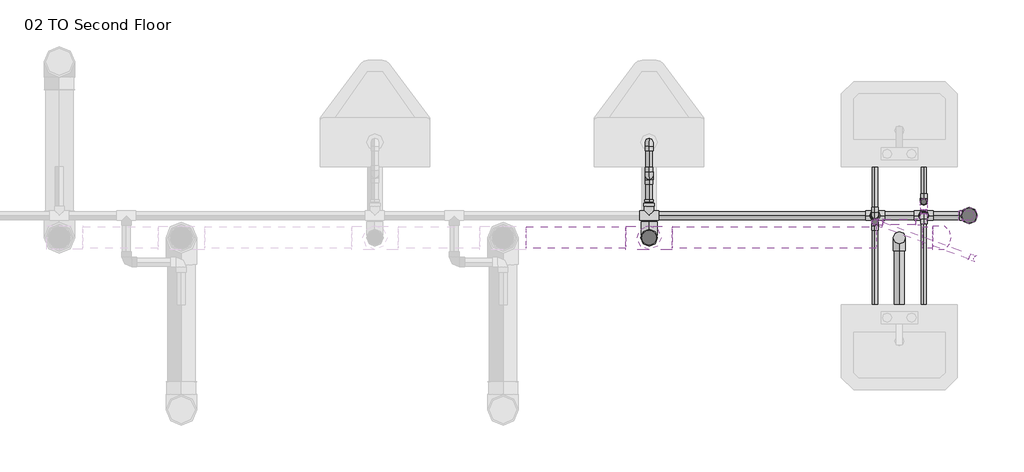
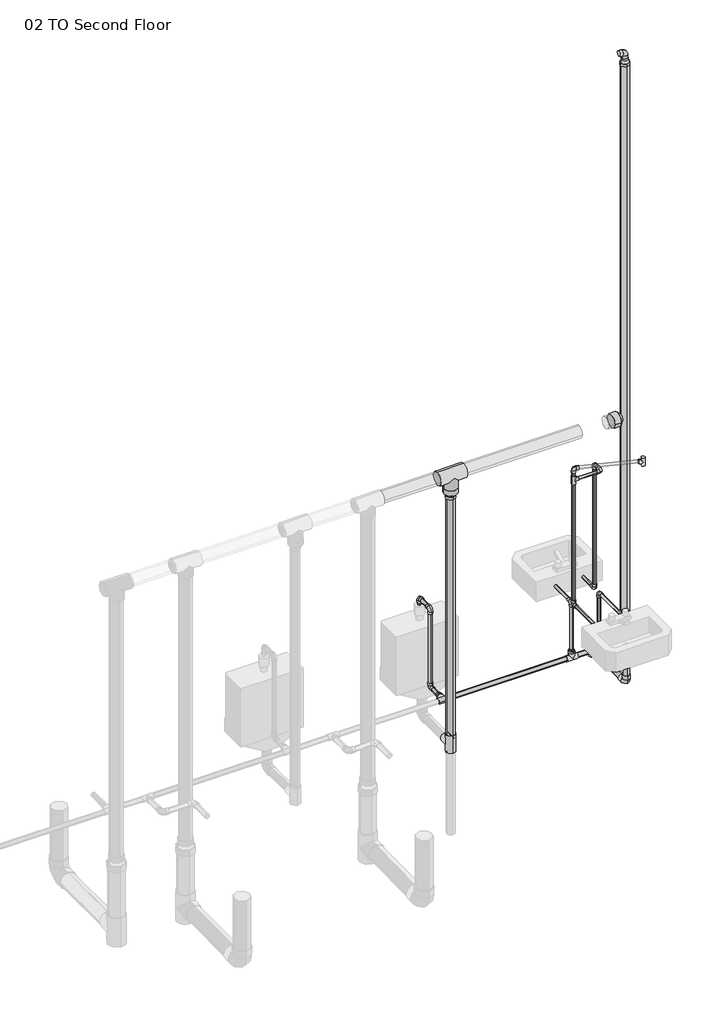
# One storey, part 3 of 3: 29 pipe fittings, 26 pipe segments.
"""IFC4 building model written with IfcOpenShell, lengths in millimetres."""

from ifc_helpers import new_model, si_unit, point, frame, frame_2d, origin, place, context, project, spatial, circle_curve, trimmed, segment, composite_curve, outline, extrude, transform, mapped, element, save
from components import cap_pvc_sch_40_standard_56ae4cf4, elbow_pvc_sch_40_standard_49eec4e1, elbow_pvc_sch_40_standard_69e4ce0e, elbow_pvc_sch_40_standard_517a5a8d, elbow_pvc_sch_40_standard_b266ab3f, reducer_pvc_sch_40_dwv_standard_464ee0c2, reducer_pvc_sch_40_dwv_standard_62d2b996, reducer_pvc_sch_40_dwv_standard_36281592, reducer_pvc_sch_40_dwv_standard_0d64fc83, reducer_pvc_sch_40_dwv_standard_ca3bfa07, tee_pvc_sch_40_standard_2c251a49, tee_pvc_sch_40_standard_b08d6211, tee_pvc_sch_40_standard_08ff6011, tee_pvc_sch_40_standard_9261842d, tee_pvc_sch_40_standard_72b35c3b

model = new_model("IFC4")

# Units and contexts
model_context = context("Model", 3, world=origin())
ifc_project = project(units=[si_unit("LENGTHUNIT", "METRE", prefix="MILLI")], contexts=[model_context])

# Site, building, storey
site = spatial("IfcSite", under=ifc_project)
building = spatial("IfcBuilding", under=site)
storey = spatial("IfcBuildingStorey", under=building, Name="02 TO Second Floor", Elevation=4572.0)

# Pipe fittings
placement = place(None, origin())
cap_pvc_sch_40_standard_shape = cap_pvc_sch_40_standard_56ae4cf4(model_context)
element("IfcPipeFitting", 1, ObjectType="Cap - PVC - Sch 40 : Standard", at=placement, inside=storey, context=model_context, shape_type="MappedRepresentation", body=[
    mapped(cap_pvc_sch_40_standard_shape, transform((-12487.0540617, -4439.7857603, 6735.7752), x_axis=(1.0, 0.0, 0.0), y_axis=(0.0, 1.0, 0.0), z_axis=(0.0, 0.0, 1.0))),
])
elbow_pvc_sch_40_standard_shape = elbow_pvc_sch_40_standard_49eec4e1(model_context)
element("IfcPipeFitting", 2, ObjectType="Elbow - PVC - Sch 40 : Standard", at=placement, inside=storey, context=model_context, shape_type="MappedRepresentation", body=[
    mapped(elbow_pvc_sch_40_standard_shape, transform((-12525.0118429, -4290.4203325, 5359.4), x_axis=(0.0, -1.0, 0.0), y_axis=(0.0, 0.0, 1.0), z_axis=(-1.0, 0.0, 0.0))),
])
element("IfcPipeFitting", 3, ObjectType="Elbow - PVC - Sch 40 : Standard", at=placement, inside=storey, context=model_context, shape_type="MappedRepresentation", body=[
    mapped(elbow_pvc_sch_40_standard_shape, transform((-12728.2118429, -4374.5670235, 5359.4), x_axis=(0.0, 0.0, -1.0), y_axis=(0.0, -1.0, 0.0), z_axis=(-1.0, 0.0, 0.0))),
])
element("IfcPipeFitting", 4, ObjectType="Elbow - PVC - Sch 40 : Standard", at=placement, inside=storey, context=model_context, shape_type="MappedRepresentation", body=[
    mapped(elbow_pvc_sch_40_standard_shape, transform((-12525.0118429, -4374.5670235, 6324.1219792), x_axis=(1.0, 0.0, 0.0), y_axis=(0.0, 1.0, 0.0), z_axis=(0.0, 0.0, 1.0))),
])
element("IfcPipeFitting", 5, ObjectType="Elbow - PVC - Sch 40 : Standard", at=placement, inside=storey, context=model_context, shape_type="MappedRepresentation", body=[
    mapped(elbow_pvc_sch_40_standard_shape, transform((-12525.0118429, -4290.4203325, 6324.1219792), x_axis=(0.0, 0.0, 1.0), y_axis=(0.0, -1.0, 0.0), z_axis=(1.0, 0.0, 0.0))),
])
element("IfcPipeFitting", 6, ObjectType="Elbow - PVC - Sch 40 : Standard", at=placement, inside=storey, context=model_context, shape_type="MappedRepresentation", body=[
    mapped(elbow_pvc_sch_40_standard_shape, transform((-12728.2118429, -4347.5703325, 5359.4), x_axis=(0.0, -1.0, 0.0), y_axis=(0.0, 0.0, -1.0), z_axis=(1.0, 0.0, 0.0))),
])
element("IfcPipeFitting", 7, ObjectType="Elbow - PVC - Sch 40 : Standard", at=placement, inside=storey, context=model_context, shape_type="MappedRepresentation", body=[
    mapped(elbow_pvc_sch_40_standard_shape, transform((-12525.0118429, -4347.5703325, 5359.4), x_axis=(0.0, 1.0, 0.0), y_axis=(0.0, 0.0, -1.0), z_axis=(-1.0, 0.0, 0.0))),
])
element("IfcPipeFitting", 8, ObjectType="Elbow - PVC - Sch 40 : Standard", at=placement, inside=storey, context=model_context, shape_type="MappedRepresentation", body=[
    mapped(elbow_pvc_sch_40_standard_shape, transform((-12728.2118429, -4374.5670235, 6414.4852132), x_axis=(0.0, 0.0, 1.0), y_axis=(0.938905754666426, -0.3441743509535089, 0.0), z_axis=(0.3441743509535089, 0.938905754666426, 0.0))),
])
elbow_pvc_sch_40_standard_2_shape = elbow_pvc_sch_40_standard_69e4ce0e(model_context)
element("IfcPipeFitting", 9, ObjectType="Elbow - PVC - Sch 40 : Standard", at=placement, inside=storey, context=model_context, shape_type="MappedRepresentation", body=[
    mapped(elbow_pvc_sch_40_standard_2_shape, transform((-12626.6118429, -4871.4453325, 5019.675), x_axis=(0.0, 0.0, -1.0), y_axis=(0.0, 1.0, 0.0), z_axis=(1.0, 0.0, 0.0))),
])
elbow_pvc_sch_40_standard_3_shape = elbow_pvc_sch_40_standard_517a5a8d(model_context)
element("IfcPipeFitting", 10, ObjectType="Elbow - PVC - Sch 40 : Standard", at=placement, inside=storey, context=model_context, shape_type="MappedRepresentation", body=[
    mapped(elbow_pvc_sch_40_standard_3_shape, transform((-12335.1860378, -4347.5703325, 9499.6), x_axis=(0.0, 0.0, 1.0), y_axis=(-1.0, 0.0, 0.0), z_axis=(0.0, -1.0, 0.0))),
])
elbow_pvc_sch_40_standard_4_shape = elbow_pvc_sch_40_standard_b266ab3f(model_context)
element("IfcPipeFitting", 11, ObjectType="Elbow - PVC - Sch 40 : Standard", at=placement, inside=storey, context=model_context, shape_type="MappedRepresentation", body=[
    mapped(elbow_pvc_sch_40_standard_4_shape, transform((-13669.7542617, -4041.5797075, 5534.81875), x_axis=(0.0, 0.0, 1.0), y_axis=(0.0, -1.0, 0.0), z_axis=(1.0, 0.0, 0.0))),
])
element("IfcPipeFitting", 12, ObjectType="Elbow - PVC - Sch 40 : Standard", at=placement, inside=storey, context=model_context, shape_type="MappedRepresentation", body=[
    mapped(elbow_pvc_sch_40_standard_4_shape, transform((-13669.7542617, -4181.2797075, 5534.81875), x_axis=(0.0, -1.0, 0.0), y_axis=(0.0, 0.0, -1.0), z_axis=(1.0, 0.0, 0.0))),
])
element("IfcPipeFitting", 13, ObjectType="Elbow - PVC - Sch 40 : Standard", at=placement, inside=storey, context=model_context, shape_type="MappedRepresentation", body=[
    mapped(elbow_pvc_sch_40_standard_4_shape, transform((-13669.7542617, -4181.2797075, 4927.6), x_axis=(0.0, 0.0, -1.0), y_axis=(0.0, -1.0, 0.0), z_axis=(-1.0, 0.0, 0.0))),
])
reducer_pvc_sch_40_dwv_standard_shape = reducer_pvc_sch_40_dwv_standard_464ee0c2(model_context)
element("IfcPipeFitting", 14, ObjectType="Reducer - PVC - Sch 40 - DWV : Standard", at=placement, inside=storey, context=model_context, shape_type="MappedRepresentation", body=[
    mapped(reducer_pvc_sch_40_dwv_standard_shape, transform((-13669.7542617, -4439.7857603, 6638.925), x_axis=(0.0, 0.0, -1.0), y_axis=(-1.0, 0.0, 0.0), z_axis=(0.0, 1.0, 0.0))),
])
reducer_pvc_sch_40_dwv_standard_2_shape = reducer_pvc_sch_40_dwv_standard_62d2b996(model_context)
element("IfcPipeFitting", 15, ObjectType="Reducer - PVC - Sch 40 - DWV : Standard", at=placement, inside=storey, context=model_context, shape_type="MappedRepresentation", body=[
    mapped(reducer_pvc_sch_40_dwv_standard_2_shape, transform((-12728.2118429, -4347.5703325, 4967.3002), x_axis=(0.0, 0.0, 1.0), y_axis=(0.0, 1.0, 0.0), z_axis=(-1.0, 0.0, 0.0))),
])
reducer_pvc_sch_40_dwv_standard_3_shape = reducer_pvc_sch_40_dwv_standard_36281592(model_context)
element("IfcPipeFitting", 16, ObjectType="Reducer - PVC - Sch 40 - DWV : Standard", at=placement, inside=storey, context=model_context, shape_type="MappedRepresentation", body=[
    mapped(reducer_pvc_sch_40_dwv_standard_3_shape, transform((-12525.0118429, -4347.5703325, 4967.3002), x_axis=(0.0, 0.0, 1.0), y_axis=(0.0, -1.0, 0.0), z_axis=(1.0, 0.0, 0.0))),
])
reducer_pvc_sch_40_dwv_standard_4_shape = reducer_pvc_sch_40_dwv_standard_0d64fc83(model_context)
element("IfcPipeFitting", 17, ObjectType="Reducer - PVC - Sch 40 - DWV : Standard", at=placement, inside=storey, context=model_context, shape_type="MappedRepresentation", body=[
    mapped(reducer_pvc_sch_40_dwv_standard_4_shape, transform((-13669.7542617, -4307.8701325, 4927.6), x_axis=(0.0, 1.0, 0.0), y_axis=(-1.0, 0.0, 0.0), z_axis=(0.0, 0.0, 1.0))),
])
reducer_pvc_sch_40_dwv_standard_5_shape = reducer_pvc_sch_40_dwv_standard_ca3bfa07(model_context)
element("IfcPipeFitting", 18, ObjectType="Reducer - PVC - Sch 40 - DWV : Standard", at=placement, inside=storey, context=model_context, shape_type="MappedRepresentation", body=[
    mapped(reducer_pvc_sch_40_dwv_standard_5_shape, transform((-12335.1860378, -4347.5703325, 4887.8998), x_axis=(0.0, 0.0, -1.0), y_axis=(-1.0, 0.0, 0.0), z_axis=(0.0, 1.0, 0.0))),
])
element("IfcPipeFitting", 19, ObjectType="Reducer - PVC - Sch 40 - DWV : Standard", at=placement, inside=storey, context=model_context, shape_type="MappedRepresentation", body=[
    mapped(reducer_pvc_sch_40_dwv_standard_5_shape, transform((-12335.1860378, -4347.5703325, 4967.3002), x_axis=(0.0, 0.0, 1.0), y_axis=(1.0, 0.0, 0.0), z_axis=(0.0, 1.0, 0.0))),
])
element("IfcPipeFitting", 20, ObjectType="Reducer - PVC - Sch 40 - DWV : Standard", at=placement, inside=storey, context=model_context, shape_type="MappedRepresentation", body=[
    mapped(reducer_pvc_sch_40_dwv_standard_5_shape, transform((-12335.1860378, -4347.5703325, 9456.33745), x_axis=(0.0, 0.0, -1.0), y_axis=(-1.0, 0.0, 0.0), z_axis=(0.0, 1.0, 0.0))),
])
tee_pvc_sch_40_standard_shape = tee_pvc_sch_40_standard_2c251a49(model_context)
element("IfcPipeFitting", 21, ObjectType="Tee - PVC - Sch 40 : Standard", at=placement, inside=storey, context=model_context, shape_type="MappedRepresentation", body=[
    mapped(tee_pvc_sch_40_standard_shape, transform((-12728.2118429, -4374.5670235, 6324.1219792), x_axis=(0.0, 0.0, -1.0), y_axis=(-1.0, 0.0, 0.0), z_axis=(0.0, 1.0, 0.0))),
])
element("IfcPipeFitting", 22, ObjectType="Tee - PVC - Sch 40 : Standard", at=placement, inside=storey, context=model_context, shape_type="MappedRepresentation", body=[
    mapped(tee_pvc_sch_40_standard_shape, transform((-12304.7024163, -4529.8127245, 6414.4852132), x_axis=(0.0, 0.0, 1.0), y_axis=(0.9389057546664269, -0.34417435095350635, 0.0), z_axis=(0.34417435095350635, 0.9389057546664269, 0.0))),
])
tee_pvc_sch_40_standard_2_shape = tee_pvc_sch_40_standard_b08d6211(model_context)
element("IfcPipeFitting", 23, ObjectType="Tee - PVC - Sch 40 : Standard", at=placement, inside=storey, context=model_context, shape_type="MappedRepresentation", body=[
    mapped(tee_pvc_sch_40_standard_2_shape, transform((-13669.7542617, -4439.7857603, 4653.5799459), x_axis=(0.0, 0.0, 1.0), y_axis=(0.0, -1.0, 0.0), z_axis=(1.0, 0.0, 0.0))),
])
tee_pvc_sch_40_standard_3_shape = tee_pvc_sch_40_standard_08ff6011(model_context)
element("IfcPipeFitting", 24, ObjectType="Tee - PVC - Sch 40 : Standard", at=placement, inside=storey, context=model_context, shape_type="MappedRepresentation", body=[
    mapped(tee_pvc_sch_40_standard_3_shape, transform((-12626.6118429, -4439.7857603, 5019.675), x_axis=(0.0, 0.0, 1.0), y_axis=(0.0, 1.0, 0.0), z_axis=(-1.0, 0.0, 0.0))),
])
tee_pvc_sch_40_standard_4_shape = tee_pvc_sch_40_standard_9261842d(model_context)
element("IfcPipeFitting", 25, ObjectType="Tee - PVC - Sch 40 : Standard", at=placement, inside=storey, context=model_context, shape_type="MappedRepresentation", body=[
    mapped(tee_pvc_sch_40_standard_4_shape, transform((-13669.7542617, -4439.7857603, 6735.7752), x_axis=(-1.0, 0.0, 0.0), y_axis=(0.0, 0.0, 1.0), z_axis=(0.0, 1.0, 0.0))),
])
tee_pvc_sch_40_standard_5_shape = tee_pvc_sch_40_standard_72b35c3b(model_context)
element("IfcPipeFitting", 26, ObjectType="Tee - PVC - Sch 40 : Standard", at=placement, inside=storey, context=model_context, shape_type="MappedRepresentation", body=[
    mapped(tee_pvc_sch_40_standard_5_shape, transform((-12727.3576088, -4347.5703325, 4927.6), x_axis=(-1.0, 0.0, 0.0), y_axis=(0.0, 0.0, -1.0), z_axis=(0.0, -1.0, 0.0))),
])
element("IfcPipeFitting", 27, ObjectType="Tee - PVC - Sch 40 : Standard", at=placement, inside=storey, context=model_context, shape_type="MappedRepresentation", body=[
    mapped(tee_pvc_sch_40_standard_5_shape, transform((-12524.1576088, -4347.5703325, 4927.6), x_axis=(-1.0, 0.0, 0.0), y_axis=(0.0, 0.0, -1.0), z_axis=(0.0, -1.0, 0.0))),
])
element("IfcPipeFitting", 28, ObjectType="Tee - PVC - Sch 40 : Standard", at=placement, inside=storey, context=model_context, shape_type="MappedRepresentation", body=[
    mapped(tee_pvc_sch_40_standard_5_shape, transform((-13669.7542617, -4347.5703325, 4927.6), x_axis=(-1.0, 0.0, 0.0), y_axis=(0.0, -1.0, 0.0), z_axis=(0.0, 0.0, 1.0))),
])
element("IfcPipeFitting", 29, ObjectType="Tee - PVC - Sch 40 : Standard", at=placement, inside=storey, context=model_context, shape_type="MappedRepresentation", body=[
    mapped(tee_pvc_sch_40_standard_5_shape, transform((-12335.1860378, -4347.5703325, 4927.6), x_axis=(0.0, 0.0, -1.0), y_axis=(1.0, 0.0, 0.0), z_axis=(0.0, -1.0, 0.0))),
])

# Pipe segments
element("IfcPipeSegment", 30, ObjectType="Standard", at=placement, inside=storey, context=model_context, shape_type="SweptSolid", body=[
    extrude(outline(composite_curve([segment(trimmed(circle_curve(frame_2d((-12626.6118429, -4871.4453325)), 21.034375), [point((-12605.5774679, -4871.4453325))], [point((-12626.6118429, -4892.4797075))], False, "CARTESIAN"), True, "CONTINUOUS"), segment(trimmed(circle_curve(frame_2d((-12626.6118429, -4871.4453325)), 21.034375), [point((-12626.6118429, -4892.4797075))], [point((-12647.6462179, -4871.4453325))], False, "CARTESIAN"), True, "CONTINUOUS"), segment(trimmed(circle_curve(frame_2d((-12626.6118429, -4871.4453325)), 21.034375), [point((-12647.6462179, -4871.4453325))], [point((-12626.6118429, -4850.4109575))], False, "CARTESIAN"), True, "CONTINUOUS"), segment(trimmed(circle_curve(frame_2d((-12626.6118429, -4871.4453325)), 21.034375), [point((-12626.6118429, -4850.4109575))], [point((-12605.5774679, -4871.4453325))], False, "CARTESIAN"), True, "CONTINUOUS")], self_intersect=False)), frame((0.0, 0.0, 5077.61875), z_axis=(0.0, 0.0, 1.0), x_axis=(1.0, 0.0, 0.0)), (0.0, 0.0, 1.0), 205.58125),
])
element("IfcPipeSegment", 31, ObjectType="Standard", at=placement, inside=storey, context=model_context, shape_type="SweptSolid", body=[
    extrude(outline(composite_curve([segment(trimmed(circle_curve(frame_2d((-13669.7542617, -4439.7857603)), 30.1625), [point((-13639.5917617, -4439.7857603))], [point((-13669.7542617, -4469.9482603))], False, "CARTESIAN"), True, "CONTINUOUS"), segment(trimmed(circle_curve(frame_2d((-13669.7542617, -4439.7857603)), 30.1625), [point((-13669.7542617, -4469.9482603))], [point((-13699.9167617, -4439.7857603))], False, "CARTESIAN"), True, "CONTINUOUS"), segment(trimmed(circle_curve(frame_2d((-13669.7542617, -4439.7857603)), 30.1625), [point((-13699.9167617, -4439.7857603))], [point((-13669.7542617, -4409.6232603))], False, "CARTESIAN"), True, "CONTINUOUS"), segment(trimmed(circle_curve(frame_2d((-13669.7542617, -4439.7857603)), 30.1625), [point((-13669.7542617, -4409.6232603))], [point((-13639.5917617, -4439.7857603))], False, "CARTESIAN"), True, "CONTINUOUS")], self_intersect=False)), frame((0.0, 0.0, 4720.2549459), z_axis=(0.0, 0.0, 1.0), x_axis=(1.0, 0.0, 0.0)), (0.0, 0.0, 1.0), 1839.2950541),
])
element("IfcPipeSegment", 32, ObjectType="Standard", at=placement, inside=storey, context=model_context, shape_type="SweptSolid", body=[
    extrude(outline(composite_curve([segment(trimmed(circle_curve(frame_2d((5019.675, -12626.6118429)), 21.034375), [point((5019.675, -12647.6462179))], [point((4998.640625, -12626.6118429))], False, "CARTESIAN"), True, "CONTINUOUS"), segment(trimmed(circle_curve(frame_2d((5019.675, -12626.6118429)), 21.034375), [point((4998.640625, -12626.6118429))], [point((5019.675, -12605.5774679))], False, "CARTESIAN"), True, "CONTINUOUS"), segment(trimmed(circle_curve(frame_2d((5019.675, -12626.6118429)), 21.034375), [point((5019.675, -12605.5774679))], [point((5040.709375, -12626.6118429))], False, "CARTESIAN"), True, "CONTINUOUS"), segment(trimmed(circle_curve(frame_2d((5019.675, -12626.6118429)), 21.034375), [point((5040.709375, -12626.6118429))], [point((5019.675, -12647.6462179))], False, "CARTESIAN"), True, "CONTINUOUS")], self_intersect=False)), frame((0.0, -4813.5015825, 0.0), z_axis=(0.0, 1.0, 0.0), x_axis=(0.0, 0.0, 1.0)), (0.0, 0.0, 1.0), 319.7408222),
])
element("IfcPipeSegment", 33, ObjectType="Standard", at=placement, inside=storey, context=model_context, shape_type="SweptSolid", body=[
    extrude(outline(composite_curve([segment(trimmed(circle_curve(frame_2d((0.0, 44.45)), 44.45), [point((-44.45, 44.45))], [point((0.0, 88.9))], False, "CARTESIAN"), True, "CONTINUOUS"), segment(trimmed(circle_curve(frame_2d((0.0, 44.45)), 44.45), [point((0.0, 88.9))], [point((44.45, 44.45))], False, "CARTESIAN"), True, "CONTINUOUS"), segment(trimmed(circle_curve(frame_2d((0.0, 44.45)), 44.45), [point((44.45, 44.45))], [point((0.0, 0.0))], False, "CARTESIAN"), True, "CONTINUOUS"), segment(trimmed(circle_curve(frame_2d((0.0, 44.45)), 44.45), [point((0.0, 0.0))], [point((-44.45, 44.45))], False, "CARTESIAN"), True, "CONTINUOUS")], self_intersect=False)), frame((-12528.9074088, -4439.7857603, 6691.3252), z_axis=(1.0, -1.0231815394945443e-12, 0.0), x_axis=(1.0231815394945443e-12, 1.0, 0.0)), (0.0, 0.0, 1.0), 41.8533472),
])
element("IfcPipeSegment", 34, ObjectType="Standard", at=placement, inside=storey, context=model_context, shape_type="SweptSolid", body=[
    extrude(outline(composite_curve([segment(trimmed(circle_curve(frame_2d((-4439.7857603, 6735.7752)), 44.45), [point((-4484.2357603, 6735.7752))], [point((-4439.7857603, 6780.2252))], False, "CARTESIAN"), True, "CONTINUOUS"), segment(trimmed(circle_curve(frame_2d((-4439.7857603, 6735.7752)), 44.45), [point((-4439.7857603, 6780.2252))], [point((-4395.3357603, 6735.7752))], False, "CARTESIAN"), True, "CONTINUOUS"), segment(trimmed(circle_curve(frame_2d((-4439.7857603, 6735.7752)), 44.45), [point((-4395.3357603, 6735.7752))], [point((-4439.7857603, 6691.3252))], False, "CARTESIAN"), True, "CONTINUOUS"), segment(trimmed(circle_curve(frame_2d((-4439.7857603, 6735.7752)), 44.45), [point((-4439.7857603, 6691.3252))], [point((-4484.2357603, 6735.7752))], False, "CARTESIAN"), True, "CONTINUOUS")], self_intersect=False)), frame((-14181.8760962, 0.0, 0.0), z_axis=(1.0, 0.0, 0.0), x_axis=(0.0, 1.0, 0.0)), (0.0, 0.0, 1.0), 415.2716345),
])
element("IfcPipeSegment", 35, ObjectType="Standard", at=placement, inside=storey, context=model_context, shape_type="SweptSolid", body=[
    extrude(outline(composite_curve([segment(trimmed(circle_curve(frame_2d((-4439.7857603, 6735.7752)), 44.45), [point((-4484.2357603, 6735.7752))], [point((-4439.7857603, 6780.2252))], False, "CARTESIAN"), True, "CONTINUOUS"), segment(trimmed(circle_curve(frame_2d((-4439.7857603, 6735.7752)), 44.45), [point((-4439.7857603, 6780.2252))], [point((-4395.3357603, 6735.7752))], False, "CARTESIAN"), True, "CONTINUOUS"), segment(trimmed(circle_curve(frame_2d((-4439.7857603, 6735.7752)), 44.45), [point((-4395.3357603, 6735.7752))], [point((-4439.7857603, 6691.3252))], False, "CARTESIAN"), True, "CONTINUOUS"), segment(trimmed(circle_curve(frame_2d((-4439.7857603, 6735.7752)), 44.45), [point((-4439.7857603, 6691.3252))], [point((-4484.2357603, 6735.7752))], False, "CARTESIAN"), True, "CONTINUOUS")], self_intersect=False)), frame((-13572.9040617, 0.0, 0.0), z_axis=(1.0, 0.0, 0.0), x_axis=(0.0, 1.0, 0.0)), (0.0, 0.0, 1.0), 850.2962528),
])
element("IfcPipeSegment", 36, ObjectType="Standard", at=placement, inside=storey, context=model_context, shape_type="SweptSolid", body=[
    extrude(outline(composite_curve([segment(trimmed(circle_curve(frame_2d((5359.4, -12525.0118429)), 10.715625), [point((5359.4, -12535.7274679))], [point((5348.684375, -12525.0118429))], False, "CARTESIAN"), True, "CONTINUOUS"), segment(trimmed(circle_curve(frame_2d((5359.4, -12525.0118429)), 10.715625), [point((5348.684375, -12525.0118429))], [point((5359.4, -12514.2962179))], False, "CARTESIAN"), True, "CONTINUOUS"), segment(trimmed(circle_curve(frame_2d((5359.4, -12525.0118429)), 10.715625), [point((5359.4, -12514.2962179))], [point((5370.115625, -12525.0118429))], False, "CARTESIAN"), True, "CONTINUOUS"), segment(trimmed(circle_curve(frame_2d((5359.4, -12525.0118429)), 10.715625), [point((5370.115625, -12525.0118429))], [point((5359.4, -12535.7274679))], False, "CARTESIAN"), True, "CONTINUOUS")], self_intersect=False)), frame((0.0, -4256.6827825, 0.0), z_axis=(0.0, 1.0, 0.0), x_axis=(0.0, 0.0, 1.0)), (0.0, 0.0, 1.0), 112.31245),
])
element("IfcPipeSegment", 37, ObjectType="Standard", at=placement, inside=storey, context=model_context, shape_type="SweptSolid", body=[
    extrude(outline(composite_curve([segment(trimmed(circle_curve(frame_2d((-12525.0118429, -4290.4203325)), 10.715625), [point((-12535.7274679, -4290.4203325))], [point((-12525.0118429, -4279.7047075))], False, "CARTESIAN"), True, "CONTINUOUS"), segment(trimmed(circle_curve(frame_2d((-12525.0118429, -4290.4203325)), 10.715625), [point((-12525.0118429, -4279.7047075))], [point((-12514.2962179, -4290.4203325))], False, "CARTESIAN"), True, "CONTINUOUS"), segment(trimmed(circle_curve(frame_2d((-12525.0118429, -4290.4203325)), 10.715625), [point((-12514.2962179, -4290.4203325))], [point((-12525.0118429, -4301.1359575))], False, "CARTESIAN"), True, "CONTINUOUS"), segment(trimmed(circle_curve(frame_2d((-12525.0118429, -4290.4203325)), 10.715625), [point((-12525.0118429, -4301.1359575))], [point((-12535.7274679, -4290.4203325))], False, "CARTESIAN"), True, "CONTINUOUS")], self_intersect=False)), frame((0.0, 0.0, 5393.13755), z_axis=(0.0, 0.0, 1.0), x_axis=(1.0, 0.0, 0.0)), (0.0, 0.0, 1.0), 897.2468792),
])
element("IfcPipeSegment", 38, ObjectType="Standard", at=placement, inside=storey, context=model_context, shape_type="SweptSolid", body=[
    extrude(outline(composite_curve([segment(trimmed(circle_curve(frame_2d((5359.4, -12728.2118429)), 10.715625), [point((5359.4, -12738.9274679))], [point((5348.684375, -12728.2118429))], False, "CARTESIAN"), True, "CONTINUOUS"), segment(trimmed(circle_curve(frame_2d((5359.4, -12728.2118429)), 10.715625), [point((5348.684375, -12728.2118429))], [point((5359.4, -12717.4962179))], False, "CARTESIAN"), True, "CONTINUOUS"), segment(trimmed(circle_curve(frame_2d((5359.4, -12728.2118429)), 10.715625), [point((5359.4, -12717.4962179))], [point((5370.115625, -12728.2118429))], False, "CARTESIAN"), True, "CONTINUOUS"), segment(trimmed(circle_curve(frame_2d((5359.4, -12728.2118429)), 10.715625), [point((5370.115625, -12728.2118429))], [point((5359.4, -12738.9274679))], False, "CARTESIAN"), True, "CONTINUOUS")], self_intersect=False)), frame((0.0, -4719.0453325, 0.0), z_axis=(0.0, 1.0, 0.0), x_axis=(0.0, 0.0, 1.0)), (0.0, 0.0, 1.0), 310.740759),
])
element("IfcPipeSegment", 39, ObjectType="Standard", at=placement, inside=storey, context=model_context, shape_type="SweptSolid", body=[
    extrude(outline(composite_curve([segment(trimmed(circle_curve(frame_2d((-12728.2118429, -4374.5670235)), 10.715625), [point((-12738.9274679, -4374.5670235))], [point((-12728.2118429, -4363.8513985))], False, "CARTESIAN"), True, "CONTINUOUS"), segment(trimmed(circle_curve(frame_2d((-12728.2118429, -4374.5670235)), 10.715625), [point((-12728.2118429, -4363.8513985))], [point((-12717.4962179, -4374.5670235))], False, "CARTESIAN"), True, "CONTINUOUS"), segment(trimmed(circle_curve(frame_2d((-12728.2118429, -4374.5670235)), 10.715625), [point((-12717.4962179, -4374.5670235))], [point((-12728.2118429, -4385.2826485))], False, "CARTESIAN"), True, "CONTINUOUS"), segment(trimmed(circle_curve(frame_2d((-12728.2118429, -4374.5670235)), 10.715625), [point((-12728.2118429, -4385.2826485))], [point((-12738.9274679, -4374.5670235))], False, "CARTESIAN"), True, "CONTINUOUS")], self_intersect=False)), frame((0.0, 0.0, 6355.8719792), z_axis=(0.0, 0.0, 1.0), x_axis=(1.0, 0.0, 0.0)), (0.0, 0.0, 1.0), 24.875684),
])
element("IfcPipeSegment", 40, ObjectType="Standard", at=placement, inside=storey, context=model_context, shape_type="SweptSolid", body=[
    extrude(outline(composite_curve([segment(trimmed(circle_curve(frame_2d((0.0, -10.715625)), 10.715625), [point((-10.715625, -10.715625))], [point((0.0, 0.0))], False, "CARTESIAN"), True, "CONTINUOUS"), segment(trimmed(circle_curve(frame_2d((0.0, -10.715625)), 10.715625), [point((0.0, 0.0))], [point((10.715625, -10.715625))], False, "CARTESIAN"), True, "CONTINUOUS"), segment(trimmed(circle_curve(frame_2d((0.0, -10.715625)), 10.715625), [point((10.715625, -10.715625))], [point((0.0, -21.43125))], False, "CARTESIAN"), True, "CONTINUOUS"), segment(trimmed(circle_curve(frame_2d((0.0, -10.715625)), 10.715625), [point((0.0, -21.43125))], [point((-10.715625, -10.715625))], False, "CARTESIAN"), True, "CONTINUOUS")], self_intersect=False)), frame((-12334.512674, -4518.8851888, 6403.7695882), z_axis=(-0.9389057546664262, 0.3441743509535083, 0.0), x_axis=(0.3441743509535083, 0.9389057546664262, 0.0)), (0.0, 0.0, 1.0), 385.5794762),
])
element("IfcPipeSegment", 41, ObjectType="Standard", at=placement, inside=storey, context=model_context, shape_type="SweptSolid", body=[
    extrude(outline(composite_curve([segment(trimmed(circle_curve(frame_2d((6324.1219792, -12525.0118429)), 10.715625), [point((6324.1219792, -12514.2962179))], [point((6334.8376042, -12525.0118429))], False, "CARTESIAN"), True, "CONTINUOUS"), segment(trimmed(circle_curve(frame_2d((6324.1219792, -12525.0118429)), 10.715625), [point((6334.8376042, -12525.0118429))], [point((6324.1219792, -12535.7274679))], False, "CARTESIAN"), True, "CONTINUOUS"), segment(trimmed(circle_curve(frame_2d((6324.1219792, -12525.0118429)), 10.715625), [point((6324.1219792, -12535.7274679))], [point((6313.4063542, -12525.0118429))], False, "CARTESIAN"), True, "CONTINUOUS"), segment(trimmed(circle_curve(frame_2d((6324.1219792, -12525.0118429)), 10.715625), [point((6313.4063542, -12525.0118429))], [point((6324.1219792, -12514.2962179))], False, "CARTESIAN"), True, "CONTINUOUS")], self_intersect=False)), frame((0.0, -4340.8294735, 0.0), z_axis=(0.0, 1.0, 0.0), x_axis=(0.0, 0.0, 1.0)), (0.0, 0.0, 1.0), 16.671591),
])
element("IfcPipeSegment", 42, ObjectType="Standard", at=placement, inside=storey, context=model_context, shape_type="SweptSolid", body=[
    extrude(outline(composite_curve([segment(trimmed(circle_curve(frame_2d((-4374.5670235, 6324.1219792)), 10.715625), [point((-4385.2826485, 6324.1219792))], [point((-4374.5670235, 6334.8376042))], False, "CARTESIAN"), True, "CONTINUOUS"), segment(trimmed(circle_curve(frame_2d((-4374.5670235, 6324.1219792)), 10.715625), [point((-4374.5670235, 6334.8376042))], [point((-4363.8513985, 6324.1219792))], False, "CARTESIAN"), True, "CONTINUOUS"), segment(trimmed(circle_curve(frame_2d((-4374.5670235, 6324.1219792)), 10.715625), [point((-4363.8513985, 6324.1219792))], [point((-4374.5670235, 6313.4063542))], False, "CARTESIAN"), True, "CONTINUOUS"), segment(trimmed(circle_curve(frame_2d((-4374.5670235, 6324.1219792)), 10.715625), [point((-4374.5670235, 6313.4063542))], [point((-4385.2826485, 6324.1219792))], False, "CARTESIAN"), True, "CONTINUOUS")], self_intersect=False)), frame((-12696.4618429, 0.0, 0.0), z_axis=(1.0, 0.0, 0.0), x_axis=(0.0, 1.0, 0.0)), (0.0, 0.0, 1.0), 137.71245),
])
element("IfcPipeSegment", 43, ObjectType="Standard", at=placement, inside=storey, context=model_context, shape_type="SweptSolid", body=[
    extrude(outline(composite_curve([segment(trimmed(circle_curve(frame_2d((-12728.2118429, -4374.5670235)), 10.715625), [point((-12738.9274679, -4374.5670235))], [point((-12728.2118429, -4363.8513985))], False, "CARTESIAN"), True, "CONTINUOUS"), segment(trimmed(circle_curve(frame_2d((-12728.2118429, -4374.5670235)), 10.715625), [point((-12728.2118429, -4363.8513985))], [point((-12717.4962179, -4374.5670235))], False, "CARTESIAN"), True, "CONTINUOUS"), segment(trimmed(circle_curve(frame_2d((-12728.2118429, -4374.5670235)), 10.715625), [point((-12717.4962179, -4374.5670235))], [point((-12728.2118429, -4385.2826485))], False, "CARTESIAN"), True, "CONTINUOUS"), segment(trimmed(circle_curve(frame_2d((-12728.2118429, -4374.5670235)), 10.715625), [point((-12728.2118429, -4385.2826485))], [point((-12738.9274679, -4374.5670235))], False, "CARTESIAN"), True, "CONTINUOUS")], self_intersect=False)), frame((0.0, 0.0, 5393.13755), z_axis=(0.0, 0.0, 1.0), x_axis=(1.0, 0.0, 0.0)), (0.0, 0.0, 1.0), 899.2344292),
])
element("IfcPipeSegment", 44, ObjectType="Standard", at=placement, inside=storey, context=model_context, shape_type="SweptSolid", body=[
    extrude(outline(composite_curve([segment(trimmed(circle_curve(frame_2d((5359.4, -12525.0118429)), 10.715625), [point((5359.4, -12514.2962179))], [point((5370.115625, -12525.0118429))], False, "CARTESIAN"), True, "CONTINUOUS"), segment(trimmed(circle_curve(frame_2d((5359.4, -12525.0118429)), 10.715625), [point((5370.115625, -12525.0118429))], [point((5359.4, -12535.7274679))], False, "CARTESIAN"), True, "CONTINUOUS"), segment(trimmed(circle_curve(frame_2d((5359.4, -12525.0118429)), 10.715625), [point((5359.4, -12535.7274679))], [point((5348.684375, -12525.0118429))], False, "CARTESIAN"), True, "CONTINUOUS"), segment(trimmed(circle_curve(frame_2d((5359.4, -12525.0118429)), 10.715625), [point((5348.684375, -12525.0118429))], [point((5359.4, -12514.2962179))], False, "CARTESIAN"), True, "CONTINUOUS")], self_intersect=False)), frame((0.0, -4719.0453325, 0.0), z_axis=(0.0, 1.0, 0.0), x_axis=(0.0, 0.0, 1.0)), (0.0, 0.0, 1.0), 337.73745),
])
element("IfcPipeSegment", 45, ObjectType="Standard", at=placement, inside=storey, context=model_context, shape_type="SweptSolid", body=[
    extrude(outline(composite_curve([segment(trimmed(circle_curve(frame_2d((5359.4, -12728.2118429)), 10.715625), [point((5359.4, -12738.9274679))], [point((5348.684375, -12728.2118429))], False, "CARTESIAN"), True, "CONTINUOUS"), segment(trimmed(circle_curve(frame_2d((5359.4, -12728.2118429)), 10.715625), [point((5348.684375, -12728.2118429))], [point((5359.4, -12717.4962179))], False, "CARTESIAN"), True, "CONTINUOUS"), segment(trimmed(circle_curve(frame_2d((5359.4, -12728.2118429)), 10.715625), [point((5359.4, -12717.4962179))], [point((5370.115625, -12728.2118429))], False, "CARTESIAN"), True, "CONTINUOUS"), segment(trimmed(circle_curve(frame_2d((5359.4, -12728.2118429)), 10.715625), [point((5370.115625, -12728.2118429))], [point((5359.4, -12738.9274679))], False, "CARTESIAN"), True, "CONTINUOUS")], self_intersect=False)), frame((0.0, -4313.8327825, 0.0), z_axis=(0.0, 1.0, 0.0), x_axis=(0.0, 0.0, 1.0)), (0.0, 0.0, 1.0), 169.46245),
])
element("IfcPipeSegment", 46, ObjectType="Standard", at=placement, inside=storey, context=model_context, shape_type="SweptSolid", body=[
    extrude(outline(composite_curve([segment(trimmed(circle_curve(frame_2d((-12728.2118429, -4347.5703325)), 10.715625), [point((-12717.4962179, -4347.5703325))], [point((-12728.2118429, -4358.2859575))], False, "CARTESIAN"), True, "CONTINUOUS"), segment(trimmed(circle_curve(frame_2d((-12728.2118429, -4347.5703325)), 10.715625), [point((-12728.2118429, -4358.2859575))], [point((-12738.9274679, -4347.5703325))], False, "CARTESIAN"), True, "CONTINUOUS"), segment(trimmed(circle_curve(frame_2d((-12728.2118429, -4347.5703325)), 10.715625), [point((-12738.9274679, -4347.5703325))], [point((-12728.2118429, -4336.8547075))], False, "CARTESIAN"), True, "CONTINUOUS"), segment(trimmed(circle_curve(frame_2d((-12728.2118429, -4347.5703325)), 10.715625), [point((-12728.2118429, -4336.8547075))], [point((-12717.4962179, -4347.5703325))], False, "CARTESIAN"), True, "CONTINUOUS")], self_intersect=False)), frame((0.0, 0.0, 4993.5772937), z_axis=(0.0, 0.0, 1.0), x_axis=(1.0, 0.0, 0.0)), (0.0, 0.0, 1.0), 332.0851563),
])
element("IfcPipeSegment", 47, ObjectType="Standard", at=placement, inside=storey, context=model_context, shape_type="SweptSolid", body=[
    extrude(outline(composite_curve([segment(trimmed(circle_curve(frame_2d((-12335.1860378, -4347.5703325)), 30.1625), [point((-12365.3485378, -4347.5703325))], [point((-12335.1860378, -4317.4078325))], False, "CARTESIAN"), True, "CONTINUOUS"), segment(trimmed(circle_curve(frame_2d((-12335.1860378, -4347.5703325)), 30.1625), [point((-12335.1860378, -4317.4078325))], [point((-12305.0235378, -4347.5703325))], False, "CARTESIAN"), True, "CONTINUOUS"), segment(trimmed(circle_curve(frame_2d((-12335.1860378, -4347.5703325)), 30.1625), [point((-12305.0235378, -4347.5703325))], [point((-12335.1860378, -4377.7328325))], False, "CARTESIAN"), True, "CONTINUOUS"), segment(trimmed(circle_curve(frame_2d((-12335.1860378, -4347.5703325)), 30.1625), [point((-12335.1860378, -4377.7328325))], [point((-12365.3485378, -4347.5703325))], False, "CARTESIAN"), True, "CONTINUOUS")], self_intersect=False)), frame((0.0, 0.0, 5019.3582938), z_axis=(0.0, 0.0, 1.0), x_axis=(1.0, 0.0, 0.0)), (0.0, 0.0, 1.0), 4384.9210625),
])
element("IfcPipeSegment", 48, ObjectType="Standard", at=placement, inside=storey, context=model_context, shape_type="SweptSolid", body=[
    extrude(outline(composite_curve([segment(trimmed(circle_curve(frame_2d((-12525.0118429, -4347.5703325)), 10.715625), [point((-12514.2962179, -4347.5703325))], [point((-12525.0118429, -4358.2859575))], False, "CARTESIAN"), True, "CONTINUOUS"), segment(trimmed(circle_curve(frame_2d((-12525.0118429, -4347.5703325)), 10.715625), [point((-12525.0118429, -4358.2859575))], [point((-12535.7274679, -4347.5703325))], False, "CARTESIAN"), True, "CONTINUOUS"), segment(trimmed(circle_curve(frame_2d((-12525.0118429, -4347.5703325)), 10.715625), [point((-12535.7274679, -4347.5703325))], [point((-12525.0118429, -4336.8547075))], False, "CARTESIAN"), True, "CONTINUOUS"), segment(trimmed(circle_curve(frame_2d((-12525.0118429, -4347.5703325)), 10.715625), [point((-12525.0118429, -4336.8547075))], [point((-12514.2962179, -4347.5703325))], False, "CARTESIAN"), True, "CONTINUOUS")], self_intersect=False)), frame((0.0, 0.0, 4993.5772937), z_axis=(0.0, 0.0, 1.0), x_axis=(1.0, 0.0, 0.0)), (0.0, 0.0, 1.0), 332.0851562),
])
element("IfcPipeSegment", 49, ObjectType="Standard", at=placement, inside=storey, context=model_context, shape_type="SweptSolid", body=[
    extrude(outline(composite_curve([segment(trimmed(circle_curve(frame_2d((-4347.5703325, 4927.6)), 16.66875), [point((-4364.2390825, 4927.6))], [point((-4347.5703325, 4944.26875))], False, "CARTESIAN"), True, "CONTINUOUS"), segment(trimmed(circle_curve(frame_2d((-4347.5703325, 4927.6)), 16.66875), [point((-4347.5703325, 4944.26875))], [point((-4330.9015825, 4927.6))], False, "CARTESIAN"), True, "CONTINUOUS"), segment(trimmed(circle_curve(frame_2d((-4347.5703325, 4927.6)), 16.66875), [point((-4330.9015825, 4927.6))], [point((-4347.5703325, 4910.93125))], False, "CARTESIAN"), True, "CONTINUOUS"), segment(trimmed(circle_curve(frame_2d((-4347.5703325, 4927.6)), 16.66875), [point((-4347.5703325, 4910.93125))], [point((-4364.2390825, 4927.6))], False, "CARTESIAN"), True, "CONTINUOUS")], self_intersect=False)), frame((-12484.4574088, 0.0, 0.0), z_axis=(1.0, 0.0, 0.0), x_axis=(0.0, 1.0, 0.0)), (0.0, 0.0, 1.0), 109.571171),
])
element("IfcPipeSegment", 50, ObjectType="Standard", at=placement, inside=storey, context=model_context, shape_type="SweptSolid", body=[
    extrude(outline(composite_curve([segment(trimmed(circle_curve(frame_2d((0.0, 16.66875)), 16.66875), [point((-16.66875, 16.66875))], [point((0.0, 33.3375))], False, "CARTESIAN"), True, "CONTINUOUS"), segment(trimmed(circle_curve(frame_2d((0.0, 16.66875)), 16.66875), [point((0.0, 33.3375))], [point((16.66875, 16.66875))], False, "CARTESIAN"), True, "CONTINUOUS"), segment(trimmed(circle_curve(frame_2d((0.0, 16.66875)), 16.66875), [point((16.66875, 16.66875))], [point((0.0, 0.0))], False, "CARTESIAN"), True, "CONTINUOUS"), segment(trimmed(circle_curve(frame_2d((0.0, 16.66875)), 16.66875), [point((0.0, 0.0))], [point((-16.66875, 16.66875))], False, "CARTESIAN"), True, "CONTINUOUS")], self_intersect=False)), frame((-12687.6574088, -4347.5703325, 4910.93125), z_axis=(1.0, 2.1671553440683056e-12, 0.0), x_axis=(-2.1671553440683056e-12, 1.0, 0.0)), (0.0, 0.0, 1.0), 123.7996),
])
element("IfcPipeSegment", 51, ObjectType="Standard", at=placement, inside=storey, context=model_context, shape_type="SweptSolid", body=[
    extrude(outline(composite_curve([segment(trimmed(circle_curve(frame_2d((-13669.7542617, -4041.5797075)), 13.49375), [point((-13683.2480117, -4041.5797075))], [point((-13669.7542617, -4028.0859575))], False, "CARTESIAN"), True, "CONTINUOUS"), segment(trimmed(circle_curve(frame_2d((-13669.7542617, -4041.5797075)), 13.49375), [point((-13669.7542617, -4028.0859575))], [point((-13656.2605117, -4041.5797075))], False, "CARTESIAN"), True, "CONTINUOUS"), segment(trimmed(circle_curve(frame_2d((-13669.7542617, -4041.5797075)), 13.49375), [point((-13656.2605117, -4041.5797075))], [point((-13669.7542617, -4055.0734575))], False, "CARTESIAN"), True, "CONTINUOUS"), segment(trimmed(circle_curve(frame_2d((-13669.7542617, -4041.5797075)), 13.49375), [point((-13669.7542617, -4055.0734575))], [point((-13683.2480117, -4041.5797075))], False, "CARTESIAN"), True, "CONTINUOUS")], self_intersect=False)), frame((0.0, 0.0, 5484.01875), z_axis=(0.0, 0.0, 1.0), x_axis=(1.0, 0.0, 0.0)), (0.0, 0.0, 1.0), 15.47495),
])
element("IfcPipeSegment", 52, ObjectType="Standard", at=placement, inside=storey, context=model_context, shape_type="SweptSolid", body=[
    extrude(outline(composite_curve([segment(trimmed(circle_curve(frame_2d((5534.81875, -13669.7542617)), 13.49375), [point((5534.81875, -13683.2480117))], [point((5521.325, -13669.7542617))], False, "CARTESIAN"), True, "CONTINUOUS"), segment(trimmed(circle_curve(frame_2d((5534.81875, -13669.7542617)), 13.49375), [point((5521.325, -13669.7542617))], [point((5534.81875, -13656.2605117))], False, "CARTESIAN"), True, "CONTINUOUS"), segment(trimmed(circle_curve(frame_2d((5534.81875, -13669.7542617)), 13.49375), [point((5534.81875, -13656.2605117))], [point((5548.3125, -13669.7542617))], False, "CARTESIAN"), True, "CONTINUOUS"), segment(trimmed(circle_curve(frame_2d((5534.81875, -13669.7542617)), 13.49375), [point((5548.3125, -13669.7542617))], [point((5534.81875, -13683.2480117))], False, "CARTESIAN"), True, "CONTINUOUS")], self_intersect=False)), frame((0.0, -4145.9546575, 0.0), z_axis=(0.0, 1.0, 0.0), x_axis=(0.0, 0.0, 1.0)), (0.0, 0.0, 1.0), 69.0499),
])
element("IfcPipeSegment", 53, ObjectType="Standard", at=placement, inside=storey, context=model_context, shape_type="SweptSolid", body=[
    extrude(outline(composite_curve([segment(trimmed(circle_curve(frame_2d((-13669.7542617, -4181.2797075)), 13.49375), [point((-13656.2605117, -4181.2797075))], [point((-13669.7542617, -4194.7734575))], False, "CARTESIAN"), True, "CONTINUOUS"), segment(trimmed(circle_curve(frame_2d((-13669.7542617, -4181.2797075)), 13.49375), [point((-13669.7542617, -4194.7734575))], [point((-13683.2480117, -4181.2797075))], False, "CARTESIAN"), True, "CONTINUOUS"), segment(trimmed(circle_curve(frame_2d((-13669.7542617, -4181.2797075)), 13.49375), [point((-13683.2480117, -4181.2797075))], [point((-13669.7542617, -4167.7859575))], False, "CARTESIAN"), True, "CONTINUOUS"), segment(trimmed(circle_curve(frame_2d((-13669.7542617, -4181.2797075)), 13.49375), [point((-13669.7542617, -4167.7859575))], [point((-13656.2605117, -4181.2797075))], False, "CARTESIAN"), True, "CONTINUOUS")], self_intersect=False)), frame((0.0, 0.0, 4962.92505), z_axis=(0.0, 0.0, 1.0), x_axis=(1.0, 0.0, 0.0)), (0.0, 0.0, 1.0), 536.56865),
])
element("IfcPipeSegment", 54, ObjectType="Standard", at=placement, inside=storey, context=model_context, shape_type="SweptSolid", body=[
    extrude(outline(composite_curve([segment(trimmed(circle_curve(frame_2d((4927.6, -13669.7542617)), 13.49375), [point((4927.6, -13683.2480117))], [point((4914.10625, -13669.7542617))], False, "CARTESIAN"), True, "CONTINUOUS"), segment(trimmed(circle_curve(frame_2d((4927.6, -13669.7542617)), 13.49375), [point((4914.10625, -13669.7542617))], [point((4927.6, -13656.2605117))], False, "CARTESIAN"), True, "CONTINUOUS"), segment(trimmed(circle_curve(frame_2d((4927.6, -13669.7542617)), 13.49375), [point((4927.6, -13656.2605117))], [point((4941.09375, -13669.7542617))], False, "CARTESIAN"), True, "CONTINUOUS"), segment(trimmed(circle_curve(frame_2d((4927.6, -13669.7542617)), 13.49375), [point((4941.09375, -13669.7542617))], [point((4927.6, -13683.2480117))], False, "CARTESIAN"), True, "CONTINUOUS")], self_intersect=False)), frame((0.0, -4280.7675388, 0.0), z_axis=(0.0, 1.0, 0.0), x_axis=(0.0, 0.0, 1.0)), (0.0, 0.0, 1.0), 64.1627813),
])
element("IfcPipeSegment", 55, ObjectType="Standard", at=placement, inside=storey, context=model_context, shape_type="SweptSolid", body=[
    extrude(outline(composite_curve([segment(trimmed(circle_curve(frame_2d((-4347.5703325, 4927.6)), 16.66875), [point((-4364.2390825, 4927.6))], [point((-4347.5703325, 4944.26875))], False, "CARTESIAN"), True, "CONTINUOUS"), segment(trimmed(circle_curve(frame_2d((-4347.5703325, 4927.6)), 16.66875), [point((-4347.5703325, 4944.26875))], [point((-4330.9015825, 4927.6))], False, "CARTESIAN"), True, "CONTINUOUS"), segment(trimmed(circle_curve(frame_2d((-4347.5703325, 4927.6)), 16.66875), [point((-4330.9015825, 4927.6))], [point((-4347.5703325, 4910.93125))], False, "CARTESIAN"), True, "CONTINUOUS"), segment(trimmed(circle_curve(frame_2d((-4347.5703325, 4927.6)), 16.66875), [point((-4347.5703325, 4910.93125))], [point((-4364.2390825, 4927.6))], False, "CARTESIAN"), True, "CONTINUOUS")], self_intersect=False)), frame((-13630.0540617, 0.0, 0.0), z_axis=(1.0, 0.0, 0.0), x_axis=(0.0, 1.0, 0.0)), (0.0, 0.0, 1.0), 862.9962528),
])

save(model, "model.ifc")
